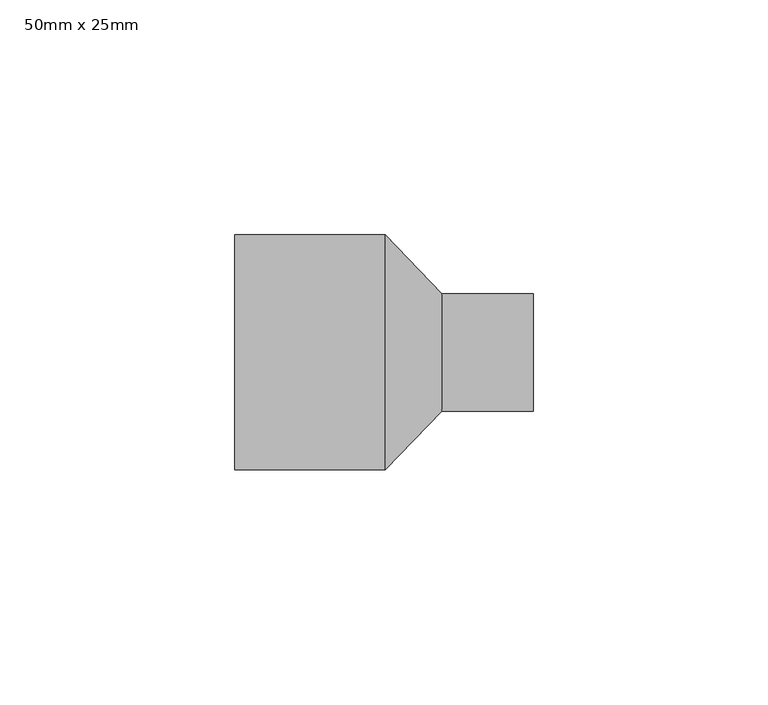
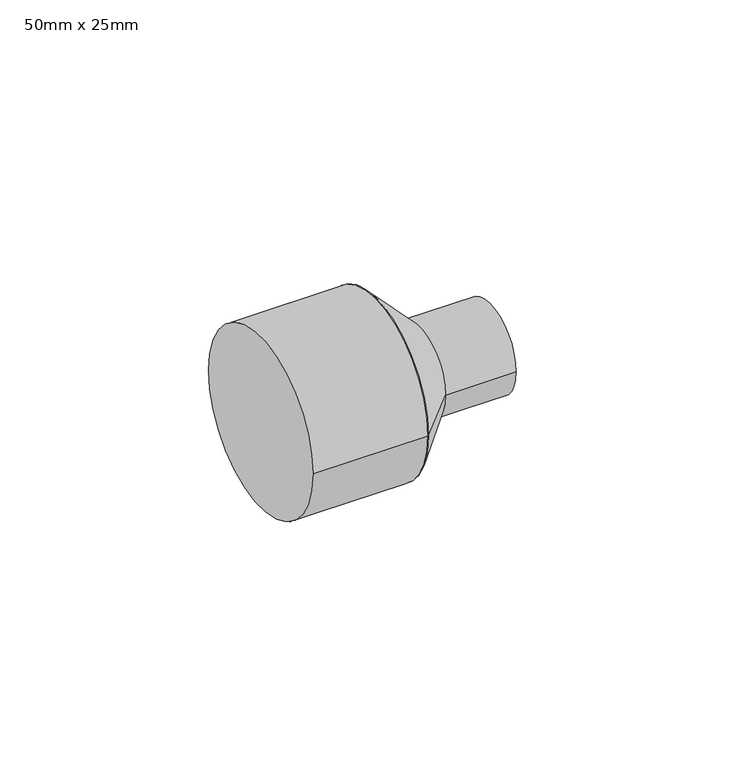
"""IFC4 building model written with IfcOpenShell, lengths in millimetres: pipe fitting geometry, PipeFitting_HTA_CPVC_ReducingBushesLongPattern : 50mm x 25mm."""

from ifc_helpers import new_model, si_unit, point, frame, origin, origin_2d, place, context, project, spatial, polyline, circle_curve, trimmed, segment, composite_curve, outline, extrude, source, transform, mapped, element, save
from ifc_brep_helpers import plane_surface, revolved_surface, advanced_brep


def pipe_fitting_50mm_x_25mm_877a24c2(model_context):
    return source(origin(), model_context, "Body", "SolidModel", [
        advanced_brep(
        [(44.0, -12.5, 0.0), (44.0, 12.5, 0.0), (32.0, -25.0, 0.0), (32.0, 25.0, 0.0)],
        [
            (0, 1, circle_curve(frame((44.0, 0.0, 0.0), z_axis=(1.0, 0.0, 0.0), x_axis=(0.0, -1.0, 0.0)), 12.5)),
            (1, 0, circle_curve(frame((44.0, 0.0, 0.0), z_axis=(1.0, 0.0, 0.0), x_axis=(0.0, 1.0, 0.0)), 12.5)),
            (2, 3, circle_curve(frame((32.0, 0.0, 0.0), z_axis=(-1.0, 0.0, 0.0), x_axis=(0.0, 1.0, 0.0)), 25.0)),
            (3, 2, circle_curve(frame((32.0, 0.0, 0.0), z_axis=(-1.0, 0.0, 0.0), x_axis=(0.0, -1.0, 0.0)), 25.0)),
            (3, 1),
            (0, 2),
        ],
        [
            plane_surface(frame((44.0, 0.0, 0.0), z_axis=(1.0, 0.0, 0.0), x_axis=(0.0, 0.0, -1.0))),
            plane_surface(frame((32.0, 0.0, 0.0), z_axis=(-1.0, 0.0, 0.0), x_axis=(0.0, 0.0, -1.0))),
            revolved_surface(polyline([(44.0, -12.5, 0.0), (32.0, -25.0, 0.0)]), (56.0, 0.0, 0.0), (-1.0, 0.0, 0.0)),
            revolved_surface(polyline([(44.0, 12.5, 0.0), (32.0, 25.0, 0.0)]), (56.0, 0.0, 0.0), (-1.0, 0.0, 0.0)),
        ],
        [
            (0, [[1, 2]]),
            (1, [[3, 4]]),
            (2, [[-4, 5, -1, 6]]),
            (3, [[-3, -6, -2, -5]]),
        ],
    ),
        extrude(outline(composite_curve([segment(trimmed(circle_curve(origin_2d(), 12.5), [point((-12.5, 0.0))], [point((12.5, 0.0))], False, "CARTESIAN"), True, "CONTINUOUS"), segment(trimmed(circle_curve(origin_2d(), 12.5), [point((12.5, 0.0))], [point((-12.5, 0.0))], False, "CARTESIAN"), True, "CONTINUOUS")], self_intersect=False)), frame((44.0, 0.0, 0.0), z_axis=(1.0, 0.0, 0.0), x_axis=(0.0, 1.0, 0.0)), (0.0, 0.0, 1.0), 19.5),
        extrude(outline(composite_curve([segment(trimmed(circle_curve(origin_2d(), 25.0), [point((-25.0, 0.0))], [point((25.0, 0.0))], False, "CARTESIAN"), True, "CONTINUOUS"), segment(trimmed(circle_curve(origin_2d(), 25.0), [point((25.0, 0.0))], [point((-25.0, 0.0))], False, "CARTESIAN"), True, "CONTINUOUS")], self_intersect=False)), frame((0.0, 0.0, 0.0), z_axis=(1.0, 0.0, 0.0), x_axis=(0.0, 1.0, 0.0)), (0.0, 0.0, 1.0), 32.0),
    ])


if __name__ == "__main__":
    model = new_model("IFC4")
    model_context = context("Model", 3, world=origin())
    ifc_project = project(units=[si_unit("LENGTHUNIT", "METRE", prefix="MILLI")], contexts=[model_context])
    site = spatial("IfcSite", under=ifc_project)
    building = spatial("IfcBuilding", under=site)
    placement = place(None, origin())
    pipe_fitting_50mm_x_25mm_shape = pipe_fitting_50mm_x_25mm_877a24c2(model_context)
    element("IfcPipeFitting", 1, ObjectType="PipeFitting_HTA_CPVC_ReducingBushesLongPattern : 50mm x 25mm", at=placement, inside=building, context=model_context, shape_type="MappedRepresentation", body=[
        mapped(pipe_fitting_50mm_x_25mm_shape, transform((0.0, 0.0, 0.0), x_axis=(1.0, 0.0, 0.0), y_axis=(0.0, 1.0, 0.0), z_axis=(0.0, 0.0, 1.0))),
    ])
    save(model, "model.ifc")
